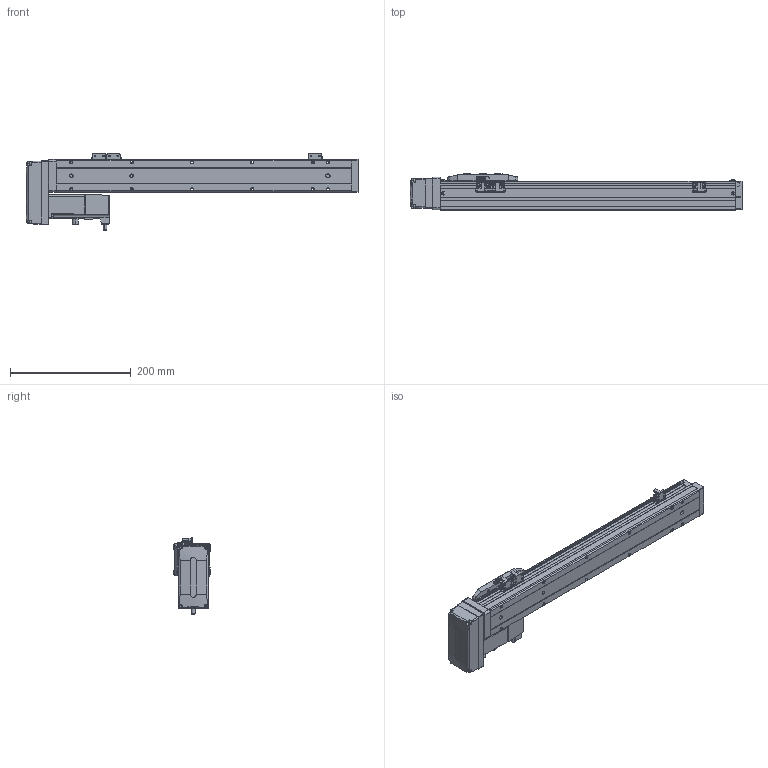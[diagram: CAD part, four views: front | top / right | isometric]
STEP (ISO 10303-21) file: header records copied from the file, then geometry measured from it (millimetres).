
FILE_DESCRIPTION (( 'STEP AP203' ), '1' );
FILE_NAME ('CTH5-L10-S350-BR-C10(¼ò).STEP', '2023-02-04T02:29:15', ( '' ), ( '' ), 'SwSTEP 2.0', 'SolidWorks 2018', '' );
FILE_SCHEMA (( 'CONFIG_CONTROL_DESIGN' ));
Length unit declared in the file: millimetre
Products named in the file (22): CTH100W假蚾啣; 100W萇儂; 嫖萇羲壽郪磁1; CTH5綴耜啣; CTH嫖萇羲壽假蚾啣; CTH5賑怢; 葩璃 蚾饜极16^CTH5-L10-S350-BR-C10(潠); 葩璃 蚾饜极13^CTH8-L10-S50-BM-C40(潠)1; T10-p1; CTH5耜晚蹟隊; PM-Y45; M3｡｣; CTH5-L10-S350-BR-C10(潠); CTH5耜蚾蟀諉啣(潠); CTH5菁釱-L490; CTH5-BL-T10_body5; 内六角圆柱头螺钉M3-2; CTH5ヶ耜啣(潠); CTH5耜蚾欶; hex nuts, style 1-grades ab gb_GB_FASTENER_NUT_SNAB1 M3-N; CTH5覜茼え; CTH5耜晚蹟隊-1
Assembly tree (37 placements, depth 4):
  CTH5-L10-S350-BR-C10(潠)
    CTH5綴耜啣
    CTH5賑怢
    CTH5ヶ耜啣(潠)
    CTH5菁釱-L490
    CTH5耜晚蹟隊  x2
    嫖萇羲壽郪磁1  x2
      CTH嫖萇羲壽假蚾啣
      PM-Y45
      M3｡｣
      内六角圆柱头螺钉M3-2
      hex nuts, style 1-grades ab gb_GB_FASTENER_NUT_SNAB1 M3-N
    CTH5覜茼え
    葩璃 蚾饜极13^CTH8-L10-S50-BM-C40(潠)1
      CTH嫖萇羲壽假蚾啣
      PM-Y45
      内六角圆柱头螺钉M3-2  x2
      M3｡｣  x2
      hex nuts, style 1-grades ab gb_GB_FASTENER_NUT_SNAB1 M3-N  x2
    CTH5耜晚蹟隊-1  x4
    葩璃 蚾饜极16^CTH5-L10-S350-BR-C10(潠)
      CTH5耜蚾蟀諉啣(潠)
      CTH5耜蚾欶
        CTH5-BL-T10_body5
      100W萇儂
        T10-p1
      CTH100W假蚾啣
Bounding box: 550 x 60 x 126.31 mm (x, y, z)
Volume: 1454934 mm3; surface area: 221743.9 mm2
Topology: 39 solids, 39 shells, 1595 faces, 3999 edges, 2584 vertices
Faces by surface type: plane 890, cylinder 464, cone 183, torus 40, bspline 18
Entity records: 37069 total; most frequent: CARTESIAN_POINT 6864, DIRECTION 5843, ORIENTED_EDGE 5622, EDGE_CURVE 2811, AXIS2_PLACEMENT_3D 2006, LINE 1831, VECTOR 1831, VERTEX_POINT 1812
